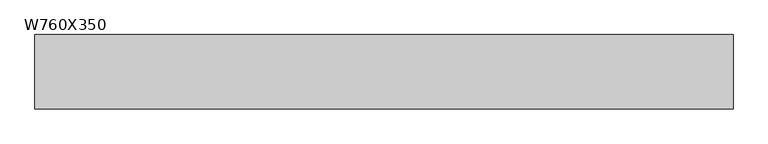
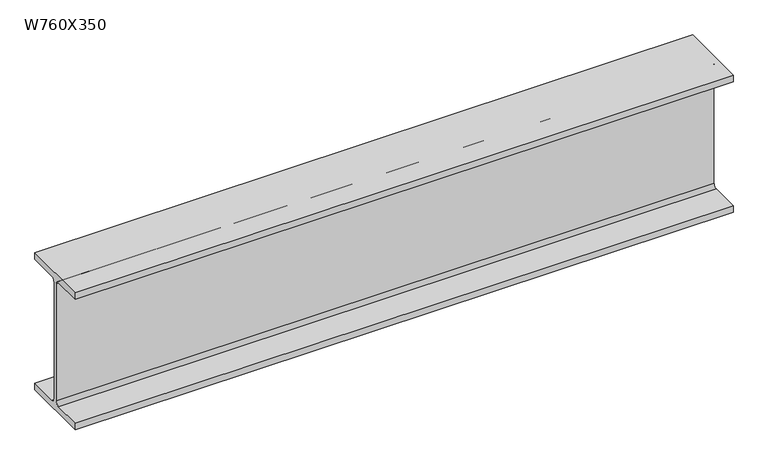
"""IFC4 building model written with IfcOpenShell, lengths in millimetres: beam geometry, M_W Shapes : W760X350."""

import ifcopenshell
import ifcopenshell.guid

model = None  # the IFC model being written
_history = None  # IfcOwnerHistory: only IFC2X3 demands one
_inside = {}  # id of a spatial element -> (the spatial element, [elements in it])
_under = {}  # id of a project, library or spatial element -> (it, [spatial elements below it])
_declared = {}  # id of a project -> (the project, [libraries it declares])
_typed = {}  # id of a type object -> (the type object, [elements of that type])
_made_of = {}  # id of a material, layer set ... -> (it, [elements and type objects made of it])


def new_model(schema):
    """Start an empty IFC model of exactly this schema.

    Asked for "IFC4X3", IfcOpenShell would pick the latest addendum, in which some entities
    have other attributes; the version numbers below select the first issue.
    IFC2X3 requires an IfcOwnerHistory on every rooted entity: one is made here for all.
    """
    global model, _history
    if schema == "IFC4X3":
        model = ifcopenshell.file(schema_version=(4, 3, 0, 0))
    else:
        model = ifcopenshell.file(schema=schema)
    _inside.clear()
    _under.clear()
    _declared.clear()
    _typed.clear()
    _made_of.clear()
    _history = None
    if model.schema == "IFC2X3":
        org = make("IfcOrganization", Name="unknown")
        user = make(
            "IfcPersonAndOrganization",
            ThePerson=make("IfcPerson", FamilyName="unknown"),
            TheOrganization=org,
        )
        app = make(
            "IfcApplication",
            ApplicationDeveloper=org,
            Version="unknown",
            ApplicationFullName="unknown",
            ApplicationIdentifier="unknown",
        )
        _history = make(
            "IfcOwnerHistory",
            OwningUser=user,
            OwningApplication=app,
            ChangeAction="ADDED",
            CreationDate=0,
        )
    return model


def make(cls, **values):
    """One entity of the class cls with the attributes given. An attribute that is None is left unset."""
    return model.create_entity(
        cls, **{name: value for name, value in values.items() if value is not None}
    )


def rooted(cls, **values):
    """An entity with a GlobalId (a new one), such as an element, a storey or a relation."""
    return make(cls, GlobalId=ifcopenshell.guid.new(), OwnerHistory=_history, **values)


def si_unit(unit_type, name, prefix=None):
    """IfcSIUnit, for example si_unit("LENGTHUNIT", "METRE", prefix="MILLI")."""
    return make("IfcSIUnit", UnitType=unit_type, Prefix=prefix, Name=name)


def assignment(units):
    """IfcUnitAssignment: the units of a project."""
    return None if units is None else make("IfcUnitAssignment", Units=units)


def point(xyz):
    """IfcCartesianPoint."""
    return None if xyz is None else make("IfcCartesianPoint", Coordinates=xyz)


def direction(xyz):
    """IfcDirection."""
    return None if xyz is None else make("IfcDirection", DirectionRatios=xyz)


def frame(location, z_axis=None, x_axis=None):
    """IfcAxis2Placement3D, a coordinate frame: its origin and axes. An axis left out is left unset."""
    return make(
        "IfcAxis2Placement3D",
        Location=point(location),
        Axis=direction(z_axis),
        RefDirection=direction(x_axis),
    )


def frame_2d(location, x_axis=None):
    """IfcAxis2Placement2D, a coordinate frame in the plane: its origin and x axis."""
    return make(
        "IfcAxis2Placement2D", Location=point(location), RefDirection=direction(x_axis)
    )


def origin():
    """The frame at (0, 0, 0) with its axes left unset."""
    return frame((0.0, 0.0, 0.0))


def place(relative_to, where):
    """IfcLocalPlacement: puts the frame where relative to a parent placement (None: the world)."""
    return make(
        "IfcLocalPlacement", PlacementRelTo=relative_to, RelativePlacement=where
    )


def context(
    kind, dimensions, precision=None, world=None, true_north=None, identifier=None
):
    """IfcGeometricRepresentationContext, for example the 3D "Model" context."""
    return make(
        "IfcGeometricRepresentationContext",
        ContextIdentifier=identifier,
        ContextType=kind,
        CoordinateSpaceDimension=dimensions,
        Precision=precision,
        WorldCoordinateSystem=world,
        TrueNorth=true_north,
    )


def project(units=None, contexts=None):
    """IfcProject with its units and contexts."""
    return rooted(
        "IfcProject",
        Name="project",
        RepresentationContexts=contexts,
        UnitsInContext=assignment(units),
    )


def spatial(cls, under=None, at=None, **own):
    """A site, building, storey or space (cls), placed at a placement, below another one or the project."""
    s = rooted(cls, ObjectPlacement=at, **own)
    if under is not None:
        _under.setdefault(under.id(), (under, []))[1].append(s)
    return s


def polyline(points):
    """IfcPolyline through the points."""
    return make("IfcPolyline", Points=[point(p) for p in points])


def circle_curve(where, radius):
    """IfcCircle in the frame where."""
    return make("IfcCircle", Position=where, Radius=radius)


def trimmed(basis, trim1, trim2, sense, master):
    """IfcTrimmedCurve: the piece of a basis curve between two trims."""
    return make(
        "IfcTrimmedCurve",
        BasisCurve=basis,
        Trim1=trim1,
        Trim2=trim2,
        SenseAgreement=sense,
        MasterRepresentation=master,
    )


def segment(curve, same_sense, transition):
    """IfcCompositeCurveSegment."""
    return make(
        "IfcCompositeCurveSegment",
        Transition=transition,
        SameSense=same_sense,
        ParentCurve=curve,
    )


def composite_curve(segments, self_intersect=None):
    """IfcCompositeCurve: segments joined end to end."""
    return make("IfcCompositeCurve", Segments=segments, SelfIntersect=self_intersect)


def outline(outer, holes=None, kind="AREA"):
    """IfcArbitraryClosedProfileDef: a profile drawn as a closed curve; with holes, ...WithVoids."""
    if holes is None:
        return make("IfcArbitraryClosedProfileDef", ProfileType=kind, OuterCurve=outer)
    return make(
        "IfcArbitraryProfileDefWithVoids",
        ProfileType=kind,
        OuterCurve=outer,
        InnerCurves=holes,
    )


def extrude(swept, where, along, depth):
    """IfcExtrudedAreaSolid: the profile swept, set in the frame where, extruded along a direction by depth."""
    return make(
        "IfcExtrudedAreaSolid",
        SweptArea=swept,
        Position=where,
        ExtrudedDirection=direction(along),
        Depth=depth,
    )


def shape(context_of_items, identifier, shape_type, items):
    """IfcShapeRepresentation: the items that make up one representation, for example the "Body"."""
    return make(
        "IfcShapeRepresentation",
        ContextOfItems=context_of_items,
        RepresentationIdentifier=identifier,
        RepresentationType=shape_type,
        Items=items,
    )


def source(mapping_origin, context_of_items, identifier, shape_type, items):
    """IfcRepresentationMap: a shape defined once, which mapped items show again and again."""
    return make(
        "IfcRepresentationMap",
        MappingOrigin=mapping_origin,
        MappedRepresentation=shape(context_of_items, identifier, shape_type, items),
    )


def transform(
    local_origin,
    x_axis=None,
    y_axis=None,
    z_axis=None,
    scale=None,
    scale2=None,
    scale3=None,
    uniform=True,
):
    """IfcCartesianTransformationOperator3D, or its non-uniform kind. x_axis, y_axis, z_axis: its Axis1, 2, 3."""
    if uniform:
        return make(
            "IfcCartesianTransformationOperator3D",
            Axis1=direction(x_axis),
            Axis2=direction(y_axis),
            LocalOrigin=point(local_origin),
            Scale=scale,
            Axis3=direction(z_axis),
        )
    return make(
        "IfcCartesianTransformationOperator3DnonUniform",
        Axis1=direction(x_axis),
        Axis2=direction(y_axis),
        LocalOrigin=point(local_origin),
        Scale=scale,
        Axis3=direction(z_axis),
        Scale2=scale2,
        Scale3=scale3,
    )


def mapped(mapping_source, mapping_target):
    """IfcMappedItem: shows the shape of a source again, moved by a transform."""
    return make(
        "IfcMappedItem", MappingSource=mapping_source, MappingTarget=mapping_target
    )


def made_of(thing, what):
    """Note that an element or type object is made of a material, layer set ...; save() writes the relation."""
    if what is not None:
        _made_of.setdefault(what.id(), (what, []))[1].append(thing)
    return thing


def element(
    cls,
    number,
    at=None,
    inside=None,
    cuts=None,
    type_object=None,
    material=None,
    context=None,
    identifier="Body",
    shape_type=None,
    held_by="IfcProductDefinitionShape",
    body=None,
    shapes=None,
    **own,
):
    """One element of the class cls, such as IfcWall. Its Tag is "e" and its number.

    at: its placement. inside: the storey or other place that contains it. cuts: it is an
    opening in that element (IfcRelVoidsElement). A single representation is given by context,
    identifier, shape_type and body (its items); several are given by shapes. held_by: the class
    of the entity that holds the representations. save() writes the other relations.
    """
    e = rooted(cls, Tag="e%d" % number, ObjectPlacement=at, **own)
    if body is not None:
        shapes = [shape(context, identifier, shape_type, body)]
    if shapes is not None:
        e.Representation = make(held_by, Representations=shapes)
    if inside is not None:
        _inside.setdefault(inside.id(), (inside, []))[1].append(e)
    if cuts is not None:
        rooted(
            "IfcRelVoidsElement", RelatingBuildingElement=cuts, RelatedOpeningElement=e
        )
    if type_object is not None:
        _typed.setdefault(type_object.id(), (type_object, []))[1].append(e)
    return made_of(e, material)


def aggregate(whole, parts):
    """IfcRelAggregates: a whole, such as a stair, and the parts it consists of."""
    return rooted("IfcRelAggregates", RelatingObject=whole, RelatedObjects=parts)


def save(model, path):
    """Write the relations noted so far, then the file.

    IfcRelAggregates (storeys below a building ...), IfcRelContainedInSpatialStructure (elements
    in a storey), IfcRelDefinesByType, IfcRelAssociatesMaterial and IfcRelDeclares: one each for
    every whole, place, type object, material and project.
    """
    for whole, parts in _under.values():
        aggregate(whole, parts)
    for where, things in _inside.values():
        rooted(
            "IfcRelContainedInSpatialStructure",
            RelatedElements=things,
            RelatingStructure=where,
        )
    for kind, things in _typed.values():
        rooted("IfcRelDefinesByType", RelatedObjects=things, RelatingType=kind)
    for what, things in _made_of.values():
        rooted("IfcRelAssociatesMaterial", RelatedObjects=things, RelatingMaterial=what)
    for by, libraries in _declared.values():
        rooted("IfcRelDeclares", RelatingContext=by, RelatedDefinitions=libraries)
    model.write(path)


def w760x350_63e12864(model_context):
    return source(origin(), model_context, "Body", "SweptSolid", [
        extrude(outline(composite_curve([segment(polyline([(192.0, -359.4), (192.0, -397.5), (-192.0, -397.5), (-192.0, -359.4), (-30.65, -359.4)]), True, "CONTINUOUS"), segment(trimmed(circle_curve(frame_2d((-30.65, -339.3)), 20.1), [point((-30.65, -359.4))], [point((-10.55, -339.3))], True, "CARTESIAN"), True, "CONTINUOUS"), segment(polyline([(-10.55, -339.3), (-10.55, 339.3)]), True, "CONTINUOUS"), segment(trimmed(circle_curve(frame_2d((-30.65, 339.3)), 20.1), [point((-10.55, 339.3))], [point((-30.65, 359.4))], True, "CARTESIAN"), True, "CONTINUOUS"), segment(polyline([(-30.65, 359.4), (-192.0, 359.4), (-192.0, 397.5), (192.0, 397.5), (192.0, 359.4), (30.65, 359.4)]), True, "CONTINUOUS"), segment(trimmed(circle_curve(frame_2d((30.65, 339.3)), 20.1), [point((30.65, 359.4))], [point((10.55, 339.3))], True, "CARTESIAN"), True, "CONTINUOUS"), segment(polyline([(10.55, 339.3), (10.55, -339.3)]), True, "CONTINUOUS"), segment(trimmed(circle_curve(frame_2d((30.65, -339.3)), 20.1), [point((10.55, -339.3))], [point((30.65, -359.4))], True, "CARTESIAN"), True, "CONTINUOUS"), segment(polyline([(30.65, -359.4), (192.0, -359.4)]), True, "CONTINUOUS")], self_intersect=False)), frame((-1803.95, 0.0, 0.0), z_axis=(1.0, 0.0, 0.0), x_axis=(0.0, 1.0, 0.0)), (0.0, 0.0, 1.0), 3607.9),
    ])


if __name__ == "__main__":
    model = new_model("IFC4")
    model_context = context("Model", 3, world=origin())
    ifc_project = project(units=[si_unit("LENGTHUNIT", "METRE", prefix="MILLI")], contexts=[model_context])
    site = spatial("IfcSite", under=ifc_project)
    building = spatial("IfcBuilding", under=site)
    placement = place(None, origin())
    w760x350_shape = w760x350_63e12864(model_context)
    element("IfcBeam", 1, ObjectType="M_W Shapes : W760X350", at=placement, inside=building, context=model_context, shape_type="MappedRepresentation", body=[
        mapped(w760x350_shape, transform((0.0, 0.0, 0.0), x_axis=(1.0, 0.0, 0.0), y_axis=(0.0, 1.0, 0.0), z_axis=(0.0, 0.0, 1.0))),
    ])
    save(model, "model.ifc")
